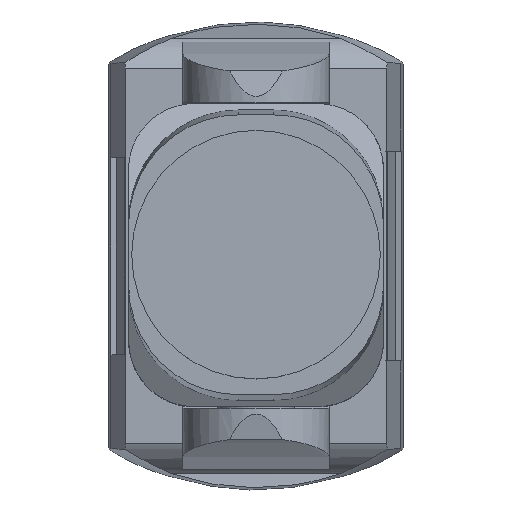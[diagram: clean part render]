
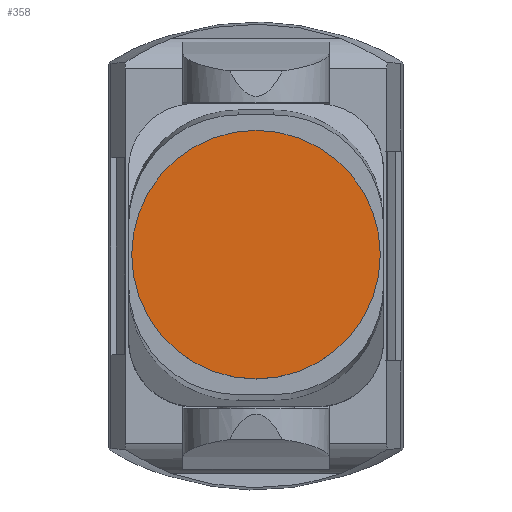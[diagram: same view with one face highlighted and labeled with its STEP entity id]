
A CAD part, top view. The second image highlights one B-rep face of the part: STEP entity #358.
In plain terms, the highlighted planar face has unit normal (0, 0, 1).
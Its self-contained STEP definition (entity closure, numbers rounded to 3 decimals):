
#358 = ADVANCED_FACE( '', ( #753 ), #754, .T. );
#753 = FACE_OUTER_BOUND( '', #1248, .T. );
#754 = PLANE( '', #1249 );
#1248 = EDGE_LOOP( '', ( #1911 ) );
#1249 = AXIS2_PLACEMENT_3D( '', #1912, #1913, #1914 );
#1911 = ORIENTED_EDGE( '', *, *, #3020, .T. );
#1912 = CARTESIAN_POINT( '', ( 130., -126.662, 678.405 ) );
#1913 = DIRECTION( '', ( 0., 0., 1. ) );
#1914 = DIRECTION( '', ( 0., -1., 0. ) );
#3020 = EDGE_CURVE( '', #3621, #3621, #3622, .T. );
#3621 = VERTEX_POINT( '', #4442 );
#3622 = CIRCLE( '', #4443, 113.175 );
#4442 = CARTESIAN_POINT( '', ( 0., -113.175, 678.405 ) );
#4443 = AXIS2_PLACEMENT_3D( '', #5450, #5451, #5452 );
#5450 = CARTESIAN_POINT( '', ( 0., 0., 678.405 ) );
#5451 = DIRECTION( '', ( 0., 0., 1. ) );
#5452 = DIRECTION( '', ( 0., -1., 0. ) );
